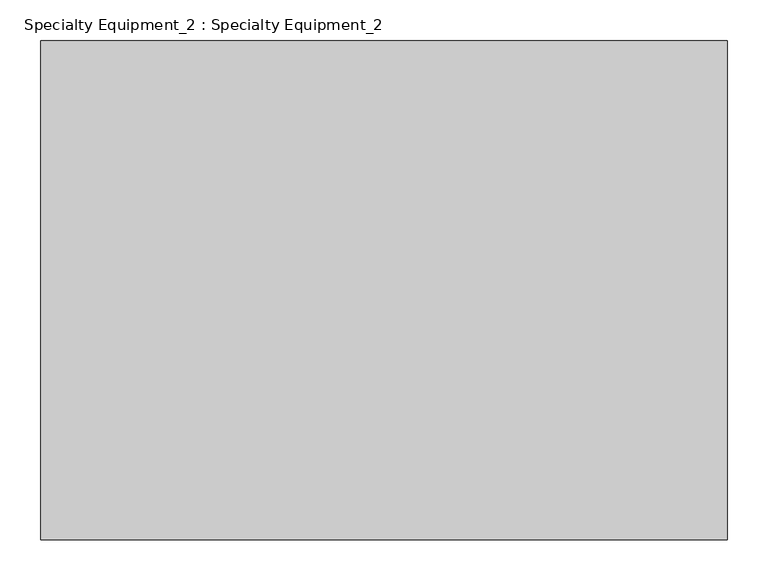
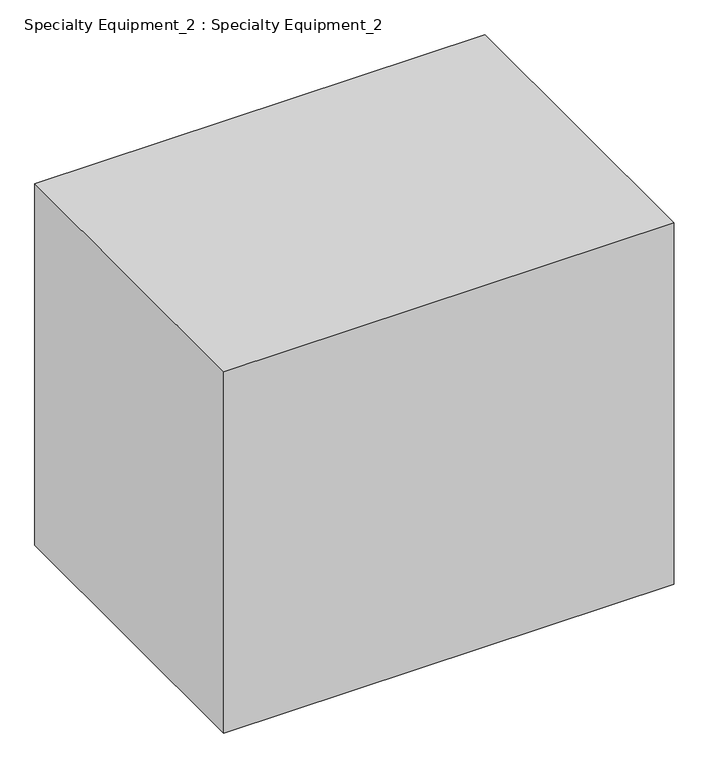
"""IFC4 building model written with IfcOpenShell, lengths in millimetres: proxy geometry, Specialty Equipment_2 : Specialty Equipment_2."""

from ifc_helpers import new_model, si_unit, origin, origin_with_axes, place, context, project, spatial, polyline, outline, extrude, source, transform, mapped, element, save


def specialty_equipment_2_specialty_equipment_2_51517b87(model_context):
    return source(origin(), model_context, "Body", "SweptSolid", [
        extrude(outline(polyline([(419.1, 0.0), (419.1, -609.6), (-419.1, -609.6), (-419.1, 0.0), (419.1, 0.0)])), origin_with_axes(), (0.0, 0.0, 1.0), 711.2),
    ])


if __name__ == "__main__":
    model = new_model("IFC4")
    model_context = context("Model", 3, world=origin())
    ifc_project = project(units=[si_unit("LENGTHUNIT", "METRE", prefix="MILLI")], contexts=[model_context])
    site = spatial("IfcSite", under=ifc_project)
    building = spatial("IfcBuilding", under=site)
    placement = place(None, origin())
    specialty_equipment_2_specialty_equipment_2_shape = specialty_equipment_2_specialty_equipment_2_51517b87(model_context)
    element("IfcBuildingElementProxy", 1, Name="Specialty Equipment_2 : Specialty Equipment_2", ObjectType="Specialty Equipment_2 : Specialty Equipment_2", at=placement, inside=building, context=model_context, shape_type="MappedRepresentation", body=[
        mapped(specialty_equipment_2_specialty_equipment_2_shape, transform((0.0, 0.0, 0.0), x_axis=(1.0, 0.0, 0.0), y_axis=(0.0, 1.0, 0.0), z_axis=(0.0, 0.0, 1.0))),
    ])
    save(model, "model.ifc")
